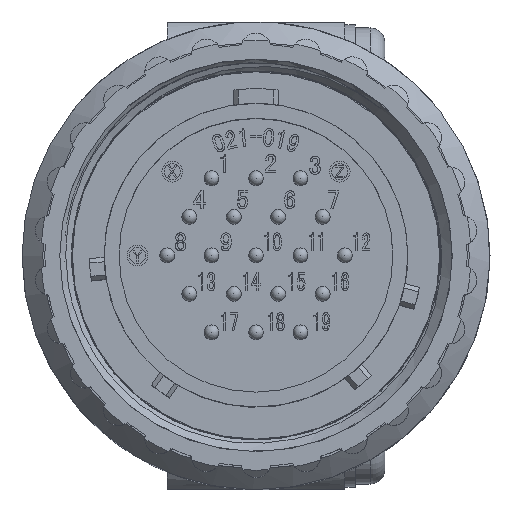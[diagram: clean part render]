
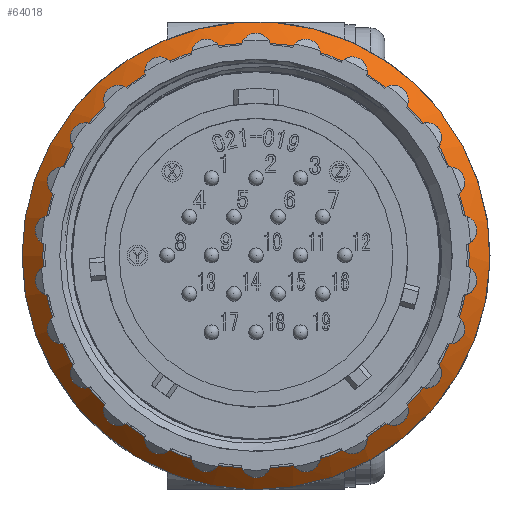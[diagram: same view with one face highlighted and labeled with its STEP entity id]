
A CAD part, top view. The second image highlights one B-rep face of the part: STEP entity #64018.
In plain terms, the highlighted conical face has half-angle 45 degrees and reference radius 15.8 mm.
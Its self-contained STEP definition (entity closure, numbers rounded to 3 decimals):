
#650 = FACE_BOUND ( 'NONE', #74801, .T. ) ;
#4494 = DIRECTION ( 'NONE',  ( 0., 0., -1. ) ) ;
#9546 = DIRECTION ( 'NONE',  ( -1., 0., 0. ) ) ;
#12240 = CARTESIAN_POINT ( 'NONE',  ( -15.8, 0., -22.1 ) ) ;
#14300 = CARTESIAN_POINT ( 'NONE',  ( 0., 0., -22.1 ) ) ;
#16596 = ORIENTED_EDGE ( 'NONE', *, *, #46583, .F. ) ;
#24165 = CARTESIAN_POINT ( 'NONE',  ( -14.4, 0., -20.7 ) ) ;
#28353 = VERTEX_POINT ( 'NONE', #24165 ) ;
#34597 = AXIS2_PLACEMENT_3D ( 'NONE', #79552, #4494, #65016 ) ;
#41044 = CIRCLE ( 'NONE', #82754, 15.8 ) ;
#46583 = EDGE_CURVE ( 'NONE', #28353, #28353, #59116, .T. ) ;
#48220 = ORIENTED_EDGE ( 'NONE', *, *, #85443, .T. ) ;
#50742 = FACE_OUTER_BOUND ( 'NONE', #71040, .T. ) ;
#51251 = DIRECTION ( 'NONE',  ( 0., 0., 1. ) ) ;
#59116 = CIRCLE ( 'NONE', #85028, 14.4 ) ;
#64018 = ADVANCED_FACE ( 'NONE', ( #50742, #650 ), #87956, .T. ) ;
#64043 = CARTESIAN_POINT ( 'NONE',  ( 0., 0., -20.7 ) ) ;
#65016 = DIRECTION ( 'NONE',  ( -1., 0., 0. ) ) ;
#69347 = DIRECTION ( 'NONE',  ( -1., 0., 0. ) ) ;
#71040 = EDGE_LOOP ( 'NONE', ( #48220 ) ) ;
#74801 = EDGE_LOOP ( 'NONE', ( #16596 ) ) ;
#79552 = CARTESIAN_POINT ( 'NONE',  ( 0., 0., -22.1 ) ) ;
#82173 = DIRECTION ( 'NONE',  ( 0., 0., 1. ) ) ;
#82754 = AXIS2_PLACEMENT_3D ( 'NONE', #14300, #82173, #69347 ) ;
#83701 = VERTEX_POINT ( 'NONE', #12240 ) ;
#85028 = AXIS2_PLACEMENT_3D ( 'NONE', #64043, #51251, #9546 ) ;
#85443 = EDGE_CURVE ( 'NONE', #83701, #83701, #41044, .T. ) ;
#87956 = CONICAL_SURFACE ( 'NONE', #34597, 15.8, 0.785 ) ;
